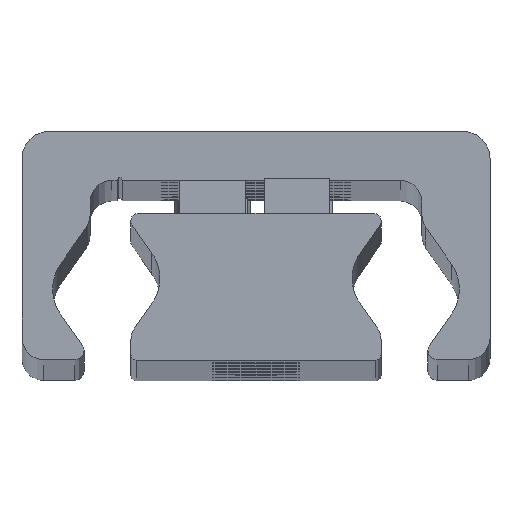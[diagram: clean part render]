
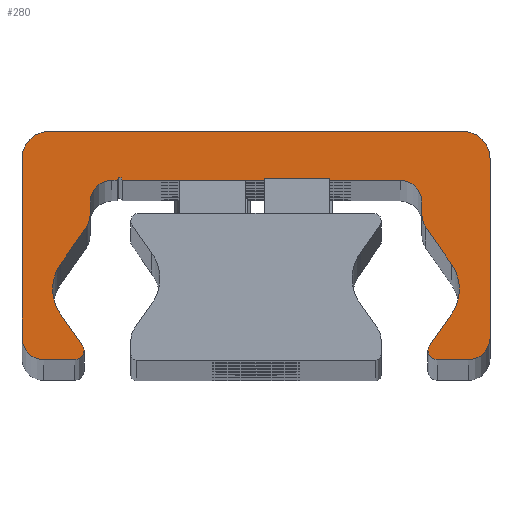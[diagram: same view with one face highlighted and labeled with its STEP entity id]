
A CAD part, top view. The second image highlights one B-rep face of the part: STEP entity #280.
In plain terms, the highlighted planar face has unit normal (0, 0, 1).
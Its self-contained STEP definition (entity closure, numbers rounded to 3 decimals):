
#280=ADVANCED_FACE('',(#774),#775,.T.);
#774=FACE_OUTER_BOUND('',#1269,.T.);
#775=PLANE('',#1270);
#1269=EDGE_LOOP('',(#2938,#2939,#2940,#2941,#2942,#2943,#2944,#2945,#2946,#2947,#2948,#2949,#2950,#2951,#2952,#2953,#2954,#2955,#2956,#2957,#2958,#2959,#2960,#2961,#2962,#2963,#2964,#2965,#2966,#2967));
#1270=AXIS2_PLACEMENT_3D('',#2968,#2969,#2970);
#2938=ORIENTED_EDGE('',*,*,#3299,.F.);
#2939=ORIENTED_EDGE('',*,*,#3542,.F.);
#2940=ORIENTED_EDGE('',*,*,#3285,.F.);
#2941=ORIENTED_EDGE('',*,*,#3541,.F.);
#2942=ORIENTED_EDGE('',*,*,#3537,.F.);
#2943=ORIENTED_EDGE('',*,*,#3534,.F.);
#2944=ORIENTED_EDGE('',*,*,#3531,.F.);
#2945=ORIENTED_EDGE('',*,*,#3528,.F.);
#2946=ORIENTED_EDGE('',*,*,#3525,.F.);
#2947=ORIENTED_EDGE('',*,*,#3522,.F.);
#2948=ORIENTED_EDGE('',*,*,#3519,.F.);
#2949=ORIENTED_EDGE('',*,*,#3516,.F.);
#2950=ORIENTED_EDGE('',*,*,#3513,.F.);
#2951=ORIENTED_EDGE('',*,*,#3510,.F.);
#2952=ORIENTED_EDGE('',*,*,#3291,.F.);
#2953=ORIENTED_EDGE('',*,*,#3508,.F.);
#2954=ORIENTED_EDGE('',*,*,#3293,.F.);
#2955=ORIENTED_EDGE('',*,*,#3507,.F.);
#2956=ORIENTED_EDGE('',*,*,#3503,.F.);
#2957=ORIENTED_EDGE('',*,*,#3500,.F.);
#2958=ORIENTED_EDGE('',*,*,#3497,.F.);
#2959=ORIENTED_EDGE('',*,*,#3494,.F.);
#2960=ORIENTED_EDGE('',*,*,#3491,.F.);
#2961=ORIENTED_EDGE('',*,*,#3488,.F.);
#2962=ORIENTED_EDGE('',*,*,#3485,.F.);
#2963=ORIENTED_EDGE('',*,*,#3482,.F.);
#2964=ORIENTED_EDGE('',*,*,#3479,.F.);
#2965=ORIENTED_EDGE('',*,*,#3476,.F.);
#2966=ORIENTED_EDGE('',*,*,#3473,.F.);
#2967=ORIENTED_EDGE('',*,*,#3470,.F.);
#2968=CARTESIAN_POINT('',(-0.023,14.187,522.0));
#2969=DIRECTION('',(0.0,0.0,1.0));
#2970=DIRECTION('',(1.0,0.0,0.0));
#3285=EDGE_CURVE('',#3992,#3995,#3996,.T.);
#3291=EDGE_CURVE('',#4005,#4001,#4007,.T.);
#3293=EDGE_CURVE('',#4008,#4011,#4012,.T.);
#3299=EDGE_CURVE('',#4021,#4017,#4023,.T.);
#3470=EDGE_CURVE('',#4017,#4298,#4299,.T.);
#3473=EDGE_CURVE('',#4298,#4303,#4304,.T.);
#3476=EDGE_CURVE('',#4303,#4308,#4309,.T.);
#3479=EDGE_CURVE('',#4308,#4313,#4314,.T.);
#3482=EDGE_CURVE('',#4313,#4318,#4319,.T.);
#3485=EDGE_CURVE('',#4318,#4323,#4324,.T.);
#3488=EDGE_CURVE('',#4323,#4328,#4329,.T.);
#3491=EDGE_CURVE('',#4328,#4333,#4334,.T.);
#3494=EDGE_CURVE('',#4333,#4338,#4339,.T.);
#3497=EDGE_CURVE('',#4338,#4343,#4344,.T.);
#3500=EDGE_CURVE('',#4343,#4348,#4349,.T.);
#3503=EDGE_CURVE('',#4348,#4353,#4354,.T.);
#3507=EDGE_CURVE('',#4353,#4008,#4359,.T.);
#3508=EDGE_CURVE('',#4011,#4005,#4360,.T.);
#3510=EDGE_CURVE('',#4001,#4362,#4363,.T.);
#3513=EDGE_CURVE('',#4362,#4367,#4368,.T.);
#3516=EDGE_CURVE('',#4367,#4372,#4373,.T.);
#3519=EDGE_CURVE('',#4372,#4377,#4378,.T.);
#3522=EDGE_CURVE('',#4377,#4382,#4383,.T.);
#3525=EDGE_CURVE('',#4382,#4387,#4388,.T.);
#3528=EDGE_CURVE('',#4387,#4392,#4393,.T.);
#3531=EDGE_CURVE('',#4392,#4397,#4398,.T.);
#3534=EDGE_CURVE('',#4397,#4402,#4403,.T.);
#3537=EDGE_CURVE('',#4402,#4407,#4408,.T.);
#3541=EDGE_CURVE('',#4407,#3992,#4413,.T.);
#3542=EDGE_CURVE('',#3995,#4021,#4414,.T.);
#3992=VERTEX_POINT('',#5008);
#3995=VERTEX_POINT('',#5012);
#3996=CIRCLE('',#5013,0.85);
#4001=VERTEX_POINT('',#5019);
#4005=VERTEX_POINT('',#5024);
#4007=CIRCLE('',#5027,0.85);
#4008=VERTEX_POINT('',#5028);
#4011=VERTEX_POINT('',#5032);
#4012=CIRCLE('',#5033,4.);
#4017=VERTEX_POINT('',#5039);
#4021=VERTEX_POINT('',#5044);
#4023=CIRCLE('',#5047,4.);
#4298=VERTEX_POINT('',#5404);
#4299=CIRCLE('',#5405,4.);
#4303=VERTEX_POINT('',#5410);
#4304=LINE('',#5411,#5412);
#4308=VERTEX_POINT('',#5418);
#4309=CIRCLE('',#5419,2.);
#4313=VERTEX_POINT('',#5424);
#4314=LINE('',#5425,#5426);
#4318=VERTEX_POINT('',#5432);
#4319=CIRCLE('',#5433,2.0);
#4323=VERTEX_POINT('',#5438);
#4324=LINE('',#5439,#5440);
#4328=VERTEX_POINT('',#5446);
#4329=CIRCLE('',#5447,0.25);
#4333=VERTEX_POINT('',#5452);
#4334=LINE('',#5453,#5454);
#4338=VERTEX_POINT('',#5460);
#4339=CIRCLE('',#5461,2.0);
#4343=VERTEX_POINT('',#5466);
#4344=LINE('',#5467,#5468);
#4348=VERTEX_POINT('',#5474);
#4349=CIRCLE('',#5475,2.0);
#4353=VERTEX_POINT('',#5480);
#4354=LINE('',#5481,#5482);
#4359=CIRCLE('',#5489,4.);
#4360=LINE('',#5490,#5491);
#4362=VERTEX_POINT('',#5494);
#4363=CIRCLE('',#5495,0.85);
#4367=VERTEX_POINT('',#5500);
#4368=LINE('',#5501,#5502);
#4372=VERTEX_POINT('',#5508);
#4373=CIRCLE('',#5509,2.);
#4377=VERTEX_POINT('',#5514);
#4378=LINE('',#5515,#5516);
#4382=VERTEX_POINT('',#5522);
#4383=CIRCLE('',#5523,2.5);
#4387=VERTEX_POINT('',#5528);
#4388=LINE('',#5529,#5530);
#4392=VERTEX_POINT('',#5536);
#4393=CIRCLE('',#5537,2.5);
#4397=VERTEX_POINT('',#5542);
#4398=LINE('',#5543,#5544);
#4402=VERTEX_POINT('',#5550);
#4403=CIRCLE('',#5551,2.);
#4407=VERTEX_POINT('',#5556);
#4408=LINE('',#5557,#5558);
#4413=CIRCLE('',#5565,0.85);
#4414=LINE('',#5566,#5567);
#5008=CARTESIAN_POINT('',(15.8,1.859,522.0));
#5012=CARTESIAN_POINT('',(15.922,2.298,522.0));
#5013=AXIS2_PLACEMENT_3D('',#6123,#6124,#6125);
#5019=CARTESIAN_POINT('',(-15.8,1.859,522.0));
#5024=CARTESIAN_POINT('',(-15.922,2.298,522.0));
#5027=AXIS2_PLACEMENT_3D('',#6135,#6136,#6137);
#5028=CARTESIAN_POINT('',(-18.688,7.509,522.0));
#5032=CARTESIAN_POINT('',(-17.964,5.214,522.0));
#5033=AXIS2_PLACEMENT_3D('',#6139,#6140,#6141);
#5039=CARTESIAN_POINT('',(18.688,7.509,522.0));
#5044=CARTESIAN_POINT('',(17.964,5.214,522.0));
#5047=AXIS2_PLACEMENT_3D('',#6151,#6152,#6153);
#5404=CARTESIAN_POINT('',(17.964,9.803,522.0));
#5405=AXIS2_PLACEMENT_3D('',#6500,#6501,#6502);
#5410=CARTESIAN_POINT('',(15.612,13.163,522.0));
#5411=CARTESIAN_POINT('',(15.612,13.163,522.0));
#5412=VECTOR('',#6507,1.0);
#5418=CARTESIAN_POINT('',(15.25,14.31,522.0));
#5419=AXIS2_PLACEMENT_3D('',#6510,#6511,#6512);
#5424=CARTESIAN_POINT('',(15.25,15.509,522.0));
#5425=CARTESIAN_POINT('',(15.25,15.509,522.0));
#5426=VECTOR('',#6517,1.0);
#5432=CARTESIAN_POINT('',(13.25,17.509,522.0));
#5433=AXIS2_PLACEMENT_3D('',#6520,#6521,#6522);
#5438=CARTESIAN_POINT('',(-12.25,17.509,522.0));
#5439=CARTESIAN_POINT('',(-12.25,17.509,522.0));
#5440=VECTOR('',#6527,1.0);
#5446=CARTESIAN_POINT('',(-12.75,17.509,522.0));
#5447=AXIS2_PLACEMENT_3D('',#6530,#6531,#6532);
#5452=CARTESIAN_POINT('',(-13.25,17.509,522.0));
#5453=CARTESIAN_POINT('',(-13.25,17.509,522.0));
#5454=VECTOR('',#6537,1.0);
#5460=CARTESIAN_POINT('',(-15.25,15.509,522.0));
#5461=AXIS2_PLACEMENT_3D('',#6540,#6541,#6542);
#5466=CARTESIAN_POINT('',(-15.25,14.31,522.0));
#5467=CARTESIAN_POINT('',(-15.25,14.31,522.0));
#5468=VECTOR('',#6547,1.0);
#5474=CARTESIAN_POINT('',(-15.612,13.163,522.0));
#5475=AXIS2_PLACEMENT_3D('',#6550,#6551,#6552);
#5480=CARTESIAN_POINT('',(-17.964,9.803,522.0));
#5481=CARTESIAN_POINT('',(-17.964,9.803,522.0));
#5482=VECTOR('',#6557,1.);
#5489=AXIS2_PLACEMENT_3D('',#6563,#6564,#6565);
#5490=CARTESIAN_POINT('',(-15.922,2.298,522.0));
#5491=VECTOR('',#6566,1.0);
#5494=CARTESIAN_POINT('',(-16.65,1.009,522.0));
#5495=AXIS2_PLACEMENT_3D('',#6568,#6569,#6570);
#5500=CARTESIAN_POINT('',(-19.5,1.009,522.0));
#5501=CARTESIAN_POINT('',(-19.5,1.009,522.0));
#5502=VECTOR('',#6575,1.0);
#5508=CARTESIAN_POINT('',(-21.5,3.009,522.0));
#5509=AXIS2_PLACEMENT_3D('',#6578,#6579,#6580);
#5514=CARTESIAN_POINT('',(-21.5,19.509,522.0));
#5515=CARTESIAN_POINT('',(-21.5,19.509,522.0));
#5516=VECTOR('',#6585,1.0);
#5522=CARTESIAN_POINT('',(-19.0,22.009,522.0));
#5523=AXIS2_PLACEMENT_3D('',#6588,#6589,#6590);
#5528=CARTESIAN_POINT('',(19.0,22.009,522.0));
#5529=CARTESIAN_POINT('',(19.0,22.009,522.0));
#5530=VECTOR('',#6595,1.0);
#5536=CARTESIAN_POINT('',(21.5,19.509,522.0));
#5537=AXIS2_PLACEMENT_3D('',#6598,#6599,#6600);
#5542=CARTESIAN_POINT('',(21.5,3.009,522.0));
#5543=CARTESIAN_POINT('',(21.5,3.009,522.0));
#5544=VECTOR('',#6605,1.0);
#5550=CARTESIAN_POINT('',(19.5,1.009,522.0));
#5551=AXIS2_PLACEMENT_3D('',#6608,#6609,#6610);
#5556=CARTESIAN_POINT('',(16.65,1.009,522.0));
#5557=CARTESIAN_POINT('',(16.65,1.009,522.0));
#5558=VECTOR('',#6615,1.0);
#5565=AXIS2_PLACEMENT_3D('',#6621,#6622,#6623);
#5566=CARTESIAN_POINT('',(17.964,5.214,522.0));
#5567=VECTOR('',#6624,1.0);
#6123=CARTESIAN_POINT('',(16.65,1.859,522.0));
#6124=DIRECTION('',(0.0,0.0,-1.0));
#6125=DIRECTION('',(1.0,0.0,0.0));
#6135=CARTESIAN_POINT('',(-16.65,1.859,522.0));
#6136=DIRECTION('',(0.0,0.0,-1.0));
#6137=DIRECTION('',(1.0,0.0,0.0));
#6139=CARTESIAN_POINT('',(-14.688,7.509,522.0));
#6140=DIRECTION('',(0.0,0.0,1.0));
#6141=DIRECTION('',(1.0,0.0,0.0));
#6151=CARTESIAN_POINT('',(14.688,7.509,522.0));
#6152=DIRECTION('',(0.0,0.0,1.0));
#6153=DIRECTION('',(1.0,0.0,0.0));
#6500=CARTESIAN_POINT('',(14.688,7.509,522.0));
#6501=DIRECTION('',(0.0,0.0,1.0));
#6502=DIRECTION('',(1.0,0.0,0.0));
#6507=DIRECTION('',(-0.574,0.819,0.0));
#6510=CARTESIAN_POINT('',(17.25,14.31,522.0));
#6511=DIRECTION('',(0.0,0.0,-1.0));
#6512=DIRECTION('',(1.0,0.0,0.0));
#6517=DIRECTION('',(0.0,1.0,0.0));
#6520=CARTESIAN_POINT('',(13.25,15.509,522.0));
#6521=DIRECTION('',(0.0,0.0,1.0));
#6522=DIRECTION('',(1.0,0.0,0.0));
#6527=DIRECTION('',(-1.0,-0.0,-0.0));
#6530=CARTESIAN_POINT('',(-12.5,17.509,522.0));
#6531=DIRECTION('',(0.0,0.0,1.0));
#6532=DIRECTION('',(1.0,0.0,0.0));
#6537=DIRECTION('',(-1.0,-0.0,-0.0));
#6540=CARTESIAN_POINT('',(-13.25,15.509,522.0));
#6541=DIRECTION('',(0.0,0.0,1.0));
#6542=DIRECTION('',(1.0,0.0,0.0));
#6547=DIRECTION('',(-0.0,-1.0,-0.0));
#6550=CARTESIAN_POINT('',(-17.25,14.31,522.0));
#6551=DIRECTION('',(0.0,0.0,-1.0));
#6552=DIRECTION('',(1.0,0.0,0.0));
#6557=DIRECTION('',(-0.574,-0.819,-0.0));
#6563=CARTESIAN_POINT('',(-14.688,7.509,522.0));
#6564=DIRECTION('',(0.0,0.0,1.0));
#6565=DIRECTION('',(1.0,0.0,0.0));
#6566=DIRECTION('',(0.574,-0.819,0.0));
#6568=CARTESIAN_POINT('',(-16.65,1.859,522.0));
#6569=DIRECTION('',(0.0,0.0,-1.0));
#6570=DIRECTION('',(1.0,0.0,0.0));
#6575=DIRECTION('',(-1.0,-0.0,-0.0));
#6578=CARTESIAN_POINT('',(-19.5,3.009,522.0));
#6579=DIRECTION('',(0.0,0.0,-1.0));
#6580=DIRECTION('',(1.0,0.0,0.0));
#6585=DIRECTION('',(0.0,1.0,0.0));
#6588=CARTESIAN_POINT('',(-19.0,19.509,522.0));
#6589=DIRECTION('',(0.0,0.0,-1.0));
#6590=DIRECTION('',(1.0,0.0,0.0));
#6595=DIRECTION('',(1.0,0.0,0.0));
#6598=CARTESIAN_POINT('',(19.0,19.509,522.0));
#6599=DIRECTION('',(0.0,0.0,-1.0));
#6600=DIRECTION('',(1.0,0.0,0.0));
#6605=DIRECTION('',(-0.0,-1.0,-0.0));
#6608=CARTESIAN_POINT('',(19.5,3.009,522.0));
#6609=DIRECTION('',(0.0,0.0,-1.0));
#6610=DIRECTION('',(1.0,0.0,0.0));
#6615=DIRECTION('',(-1.0,-0.0,-0.0));
#6621=CARTESIAN_POINT('',(16.65,1.859,522.0));
#6622=DIRECTION('',(0.0,0.0,-1.0));
#6623=DIRECTION('',(1.0,0.0,0.0));
#6624=DIRECTION('',(0.574,0.819,0.0));
